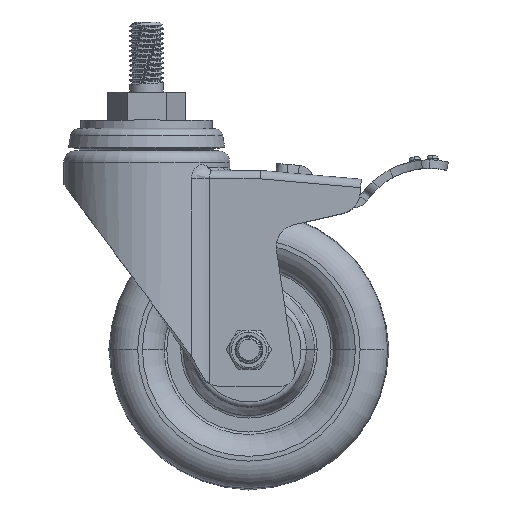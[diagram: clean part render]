
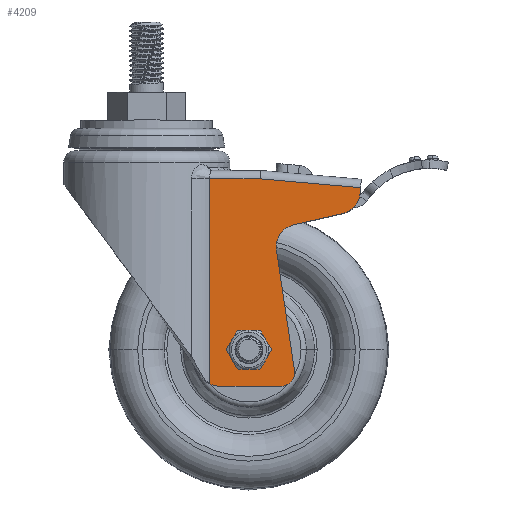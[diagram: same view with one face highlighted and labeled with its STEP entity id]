
A CAD part, top view. The second image highlights one B-rep face of the part: STEP entity #4209.
In plain terms, the highlighted planar face has unit normal (0, 0, 1).
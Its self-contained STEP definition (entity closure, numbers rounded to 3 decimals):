
#515=CARTESIAN_POINT('',(26.105,-87.8,23.));
#516=DIRECTION('',(0.,0.,1.));
#517=DIRECTION('',(-0.441,-0.898,0.));
#518=AXIS2_PLACEMENT_3D('',#515,#516,#517);
#520=DIRECTION('',(0.,-1.,0.));
#521=VECTOR('',#520,73.182);
#522=CARTESIAN_POINT('',(22.58,-21.8,23.));
#523=LINE('',#522,#521);
#524=DIRECTION('',(-1.,0.,0.));
#525=VECTOR('',#524,17.889);
#526=CARTESIAN_POINT('',(40.469,-21.8,23.));
#527=LINE('',#526,#525);
#528=DIRECTION('',(-0.996,0.087,0.));
#529=VECTOR('',#528,36.);
#530=CARTESIAN_POINT('',(76.332,-24.938,23.));
#531=LINE('',#530,#529);
#532=DIRECTION('',(-0.087,-0.996,0.));
#533=VECTOR('',#532,2.157);
#534=CARTESIAN_POINT('',(76.332,-24.938,23.));
#535=LINE('',#534,#533);
#536=CARTESIAN_POINT('',(68.174,-26.389,23.));
#537=DIRECTION('',(0.,0.,1.));
#538=DIRECTION('',(0.225,-0.974,0.));
#539=AXIS2_PLACEMENT_3D('',#536,#537,#538);
#541=DIRECTION('',(-0.974,-0.225,0.));
#542=VECTOR('',#541,17.979);
#543=CARTESIAN_POINT('',(69.974,-34.184,23.));
#544=LINE('',#543,#542);
#545=CARTESIAN_POINT('',(54.255,-46.024,23.));
#546=DIRECTION('',(0.,0.,1.));
#547=DIRECTION('',(-0.225,0.974,0.));
#548=AXIS2_PLACEMENT_3D('',#545,#546,#547);
#550=DIRECTION('',(0.148,-0.989,0.));
#551=VECTOR('',#550,43.33);
#552=CARTESIAN_POINT('',(46.343,-47.207,23.));
#553=LINE('',#552,#551);
#554=CARTESIAN_POINT('',(47.808,-90.8,23.));
#555=DIRECTION('',(0.,0.,1.));
#556=DIRECTION('',(0.,-1.,0.));
#557=AXIS2_PLACEMENT_3D('',#554,#555,#556);
#559=DIRECTION('',(1.,0.,0.));
#560=VECTOR('',#559,21.703);
#561=CARTESIAN_POINT('',(26.105,-95.8,23.));
#562=LINE('',#561,#560);
#563=CARTESIAN_POINT('',(36.5,-82.8,23.));
#564=DIRECTION('',(0.,0.,1.));
#565=DIRECTION('',(1.,0.,0.));
#566=AXIS2_PLACEMENT_3D('',#563,#564,#565);
#568=CARTESIAN_POINT('',(36.5,-82.8,23.));
#569=DIRECTION('',(0.,0.,1.));
#570=DIRECTION('',(-1.,0.,0.));
#571=AXIS2_PLACEMENT_3D('',#568,#569,#570);
#2993=CARTESIAN_POINT('',(40.469,-21.8,23.));
#2994=CARTESIAN_POINT('',(22.58,-21.8,23.));
#2995=VERTEX_POINT('',#2993);
#2996=VERTEX_POINT('',#2994);
#3039=CARTESIAN_POINT('',(76.332,-24.938,23.));
#3040=VERTEX_POINT('',#3039);
#3058=CARTESIAN_POINT('',(22.58,-94.982,23.));
#3059=CARTESIAN_POINT('',(26.105,-95.8,23.));
#3060=VERTEX_POINT('',#3058);
#3061=VERTEX_POINT('',#3059);
#3125=CARTESIAN_POINT('',(76.144,-27.087,23.));
#3126=VERTEX_POINT('',#3125);
#3127=CARTESIAN_POINT('',(69.974,-34.184,23.));
#3128=VERTEX_POINT('',#3127);
#3129=CARTESIAN_POINT('',(52.456,-38.229,23.));
#3130=VERTEX_POINT('',#3129);
#3131=CARTESIAN_POINT('',(46.343,-47.207,23.));
#3132=VERTEX_POINT('',#3131);
#3133=CARTESIAN_POINT('',(52.753,-90.06,23.));
#3134=VERTEX_POINT('',#3133);
#3135=CARTESIAN_POINT('',(47.808,-95.8,23.));
#3136=VERTEX_POINT('',#3135);
#3165=CARTESIAN_POINT('',(41.5,-82.8,23.));
#3166=CARTESIAN_POINT('',(31.5,-82.8,23.));
#3167=VERTEX_POINT('',#3165);
#3168=VERTEX_POINT('',#3166);
#4176=CARTESIAN_POINT('',(0.,0.,23.));
#4177=DIRECTION('',(0.,0.,1.));
#4178=DIRECTION('',(1.,0.,0.));
#4179=AXIS2_PLACEMENT_3D('',#4176,#4177,#4178);
#4180=PLANE('',#4179);
#4182=ORIENTED_EDGE('',*,*,#4181,.F.);
#4183=ORIENTED_EDGE('',*,*,#3958,.F.);
#4184=ORIENTED_EDGE('',*,*,#4167,.F.);
#4186=ORIENTED_EDGE('',*,*,#4185,.F.);
#4188=ORIENTED_EDGE('',*,*,#4187,.T.);
#4190=ORIENTED_EDGE('',*,*,#4189,.F.);
#4192=ORIENTED_EDGE('',*,*,#4191,.T.);
#4194=ORIENTED_EDGE('',*,*,#4193,.T.);
#4196=ORIENTED_EDGE('',*,*,#4195,.T.);
#4198=ORIENTED_EDGE('',*,*,#4197,.F.);
#4200=ORIENTED_EDGE('',*,*,#4199,.F.);
#4201=EDGE_LOOP('',(#4182,#4183,#4184,#4186,#4188,#4190,#4192,#4194,#4196,#4198,
#4200));
#4202=FACE_OUTER_BOUND('',#4201,.F.);
#4204=ORIENTED_EDGE('',*,*,#4203,.T.);
#4206=ORIENTED_EDGE('',*,*,#4205,.T.);
#4207=EDGE_LOOP('',(#4204,#4206));
#4208=FACE_BOUND('',#4207,.F.);
#519=CIRCLE('',#518,8.);
#540=CIRCLE('',#539,8.);
#549=CIRCLE('',#548,8.);
#558=CIRCLE('',#557,5.);
#567=CIRCLE('',#566,5.);
#572=CIRCLE('',#571,5.);
#3958=EDGE_CURVE('',#2996,#3060,#523,.T.);
#4167=EDGE_CURVE('',#2995,#2996,#527,.T.);
#4181=EDGE_CURVE('',#3060,#3061,#519,.T.);
#4185=EDGE_CURVE('',#3040,#2995,#531,.T.);
#4187=EDGE_CURVE('',#3040,#3126,#535,.T.);
#4189=EDGE_CURVE('',#3128,#3126,#540,.T.);
#4191=EDGE_CURVE('',#3128,#3130,#544,.T.);
#4193=EDGE_CURVE('',#3130,#3132,#549,.T.);
#4195=EDGE_CURVE('',#3132,#3134,#553,.T.);
#4197=EDGE_CURVE('',#3136,#3134,#558,.T.);
#4199=EDGE_CURVE('',#3061,#3136,#562,.T.);
#4203=EDGE_CURVE('',#3167,#3168,#567,.T.);
#4205=EDGE_CURVE('',#3168,#3167,#572,.T.);
#4209=ADVANCED_FACE('',(#4202,#4208),#4180,.T.);
